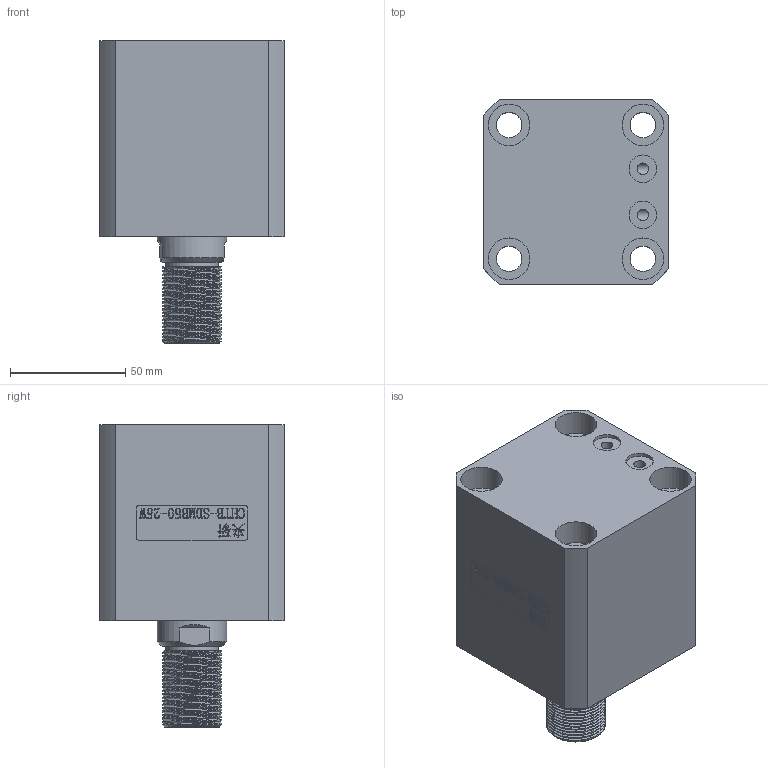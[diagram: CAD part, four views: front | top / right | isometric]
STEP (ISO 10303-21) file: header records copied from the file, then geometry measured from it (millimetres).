
FILE_DESCRIPTION(/* description */ (''),/* implementation_level */ '2;1');
FILE_NAME(/* name */ 'CHTB-SDMB50-25W.stp',/* time_stamp */ '2022-04-29T18:23:36+08:00',/* author */ (''),/* organization */ (''),/* preprocessor_version */ 'ST-DEVELOPER v16.7',/* originating_system */ 'SIEMENS PLM Software NX 12.0',/* authorisation */ '');
FILE_SCHEMA (('AUTOMOTIVE_DESIGN { 1 0 10303 214 3 1 1 1 }'));
Length unit declared in the file: millimetre
Products named in the file (1): CHTB-SDMB50-25W
Bounding box: 80 x 80 x 131 mm (x, y, z)
Volume: 477341.9 mm3; surface area: 100279.5 mm2
Topology: 5 solids, 5 shells, 511 faces, 1459 edges, 1011 vertices
Faces by surface type: plane 317, extrusion 95, cylinder 52, bspline 22, cone 14, torus 11
Full cylindrical faces by diameter (mm): 4 x2, 5 x4, 11 x4, 12 x2, 18 x8, 23 x1, 30 x2, 39 x1, 46 x1, 50 x5, 55 x8, 59 x1
Entity records: 30083 total; most frequent: CARTESIAN_POINT 15355, ORIENTED_EDGE 2774, DIRECTION 1945, EDGE_CURVE 1387, VERTEX_POINT 1000, VECTOR 953, LINE 858, EDGE_LOOP 625
